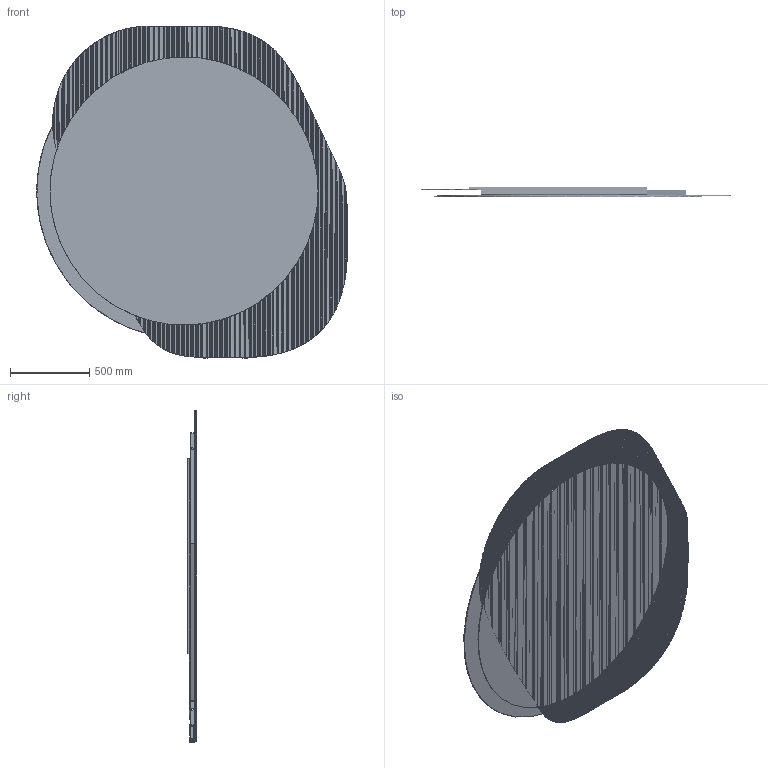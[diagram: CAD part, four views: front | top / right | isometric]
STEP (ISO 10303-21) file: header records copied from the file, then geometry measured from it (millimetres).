
FILE_DESCRIPTION(/* description */ (''),/* implementation_level */ '2;1');
FILE_NAME(/* name */ '3D_SHI~1',/* time_stamp */ '2024-04-29T18:36:49+02:00',/* author */ (''),/* organization */ (''),/* preprocessor_version */ 'ST-DEVELOPER v16.5',/* originating_system */ '',/* authorisation */ '');
FILE_SCHEMA (('AUTOMOTIVE_DESIGN'));
Products named in the file (1): Document
Bounding box: 1964.22 x 61 x 2101.23 mm (x, y, z)
Volume: 58858450.9 mm3; surface area: 17193662.1 mm2
Topology: 32 solids, 32 shells, 2315 faces, 6415 edges, 4226 vertices
Faces by surface type: bspline 1866, plane 449
Entity records: 104876 total; most frequent: CARTESIAN_POINT 68632, ORIENTED_EDGE 12774, EDGE_CURVE 6387, VERTEX_POINT 4224, B_SPLINE_CURVE_WITH_KNOTS 3794, EDGE_LOOP 2513, ADVANCED_FACE 2315, FACE_OUTER_BOUND 2315
